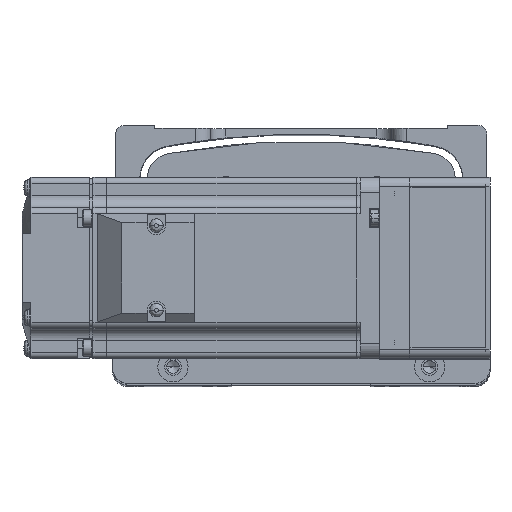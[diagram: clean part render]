
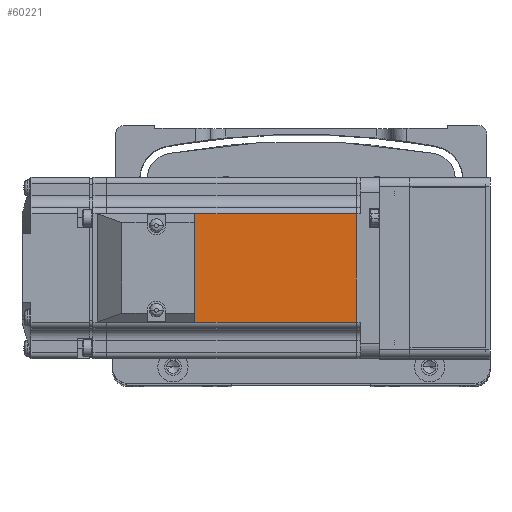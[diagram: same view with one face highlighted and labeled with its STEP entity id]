
A CAD part, top view. The second image highlights one B-rep face of the part: STEP entity #60221.
In plain terms, the highlighted planar face has unit normal (0, 0, 1) as drawn and (0, 1, 0) by its records, which use the part's own axes.
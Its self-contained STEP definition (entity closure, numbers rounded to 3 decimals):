
#1109 = CARTESIAN_POINT ( 'NONE',  ( -7.75, 30., 0. ) ) ;
#4942 = LINE ( 'NONE', #1109, #41450 ) ;
#5556 = PLANE ( 'NONE',  #76793 ) ;
#7646 = EDGE_CURVE ( 'NONE', #23122, #50743, #35224, .T. ) ;
#7687 = DIRECTION ( 'NONE',  ( 0., 0., 1. ) ) ;
#8568 = CARTESIAN_POINT ( 'NONE',  ( -6.5, 30., 18. ) ) ;
#15779 = DIRECTION ( 'NONE',  ( 1., 0., 0. ) ) ;
#20190 = VERTEX_POINT ( 'NONE', #35734 ) ;
#23122 = VERTEX_POINT ( 'NONE', #25852 ) ;
#23454 = CARTESIAN_POINT ( 'NONE',  ( -90.45, 30., 0. ) ) ;
#25852 = CARTESIAN_POINT ( 'NONE',  ( -90.45, 30., 18. ) ) ;
#26204 = DIRECTION ( 'NONE',  ( -1., 0., 0. ) ) ;
#28486 = ORIENTED_EDGE ( 'NONE', *, *, #7646, .T. ) ;
#33087 = VECTOR ( 'NONE', #15779, 1000. ) ;
#33186 = CARTESIAN_POINT ( 'NONE',  ( -6.5, 30., 25. ) ) ;
#35224 = LINE ( 'NONE', #8568, #33087 ) ;
#35734 = CARTESIAN_POINT ( 'NONE',  ( -90.45, 30., -18. ) ) ;
#36706 = EDGE_CURVE ( 'NONE', #20190, #23122, #71929, .T. ) ;
#39742 = CARTESIAN_POINT ( 'NONE',  ( -6.5, 30., -18. ) ) ;
#40081 = DIRECTION ( 'NONE',  ( 0., 0., 1. ) ) ;
#40158 = CARTESIAN_POINT ( 'NONE',  ( -7.75, 30., -18. ) ) ;
#41450 = VECTOR ( 'NONE', #7687, 1000. ) ;
#50743 = VERTEX_POINT ( 'NONE', #82327 ) ;
#51715 = VECTOR ( 'NONE', #26204, 1000. ) ;
#53410 = ORIENTED_EDGE ( 'NONE', *, *, #88799, .T. ) ;
#53625 = VECTOR ( 'NONE', #71565, 1000. ) ;
#55124 = EDGE_CURVE ( 'NONE', #69786, #50743, #4942, .T. ) ;
#57304 = ORIENTED_EDGE ( 'NONE', *, *, #55124, .F. ) ;
#60221 = ADVANCED_FACE ( 'NONE', ( #88999 ), #5556, .T. ) ;
#69786 = VERTEX_POINT ( 'NONE', #40158 ) ;
#69977 = LINE ( 'NONE', #39742, #51715 ) ;
#71565 = DIRECTION ( 'NONE',  ( 0., 0., 1. ) ) ;
#71929 = LINE ( 'NONE', #23454, #53625 ) ;
#76793 = AXIS2_PLACEMENT_3D ( 'NONE', #33186, #81255, #40081 ) ;
#79843 = ORIENTED_EDGE ( 'NONE', *, *, #36706, .T. ) ;
#81255 = DIRECTION ( 'NONE',  ( 0., 1., 0. ) ) ;
#82327 = CARTESIAN_POINT ( 'NONE',  ( -7.75, 30., 18. ) ) ;
#87446 = EDGE_LOOP ( 'NONE', ( #57304, #53410, #79843, #28486 ) ) ;
#88799 = EDGE_CURVE ( 'NONE', #69786, #20190, #69977, .T. ) ;
#88999 = FACE_OUTER_BOUND ( 'NONE', #87446, .T. ) ;
